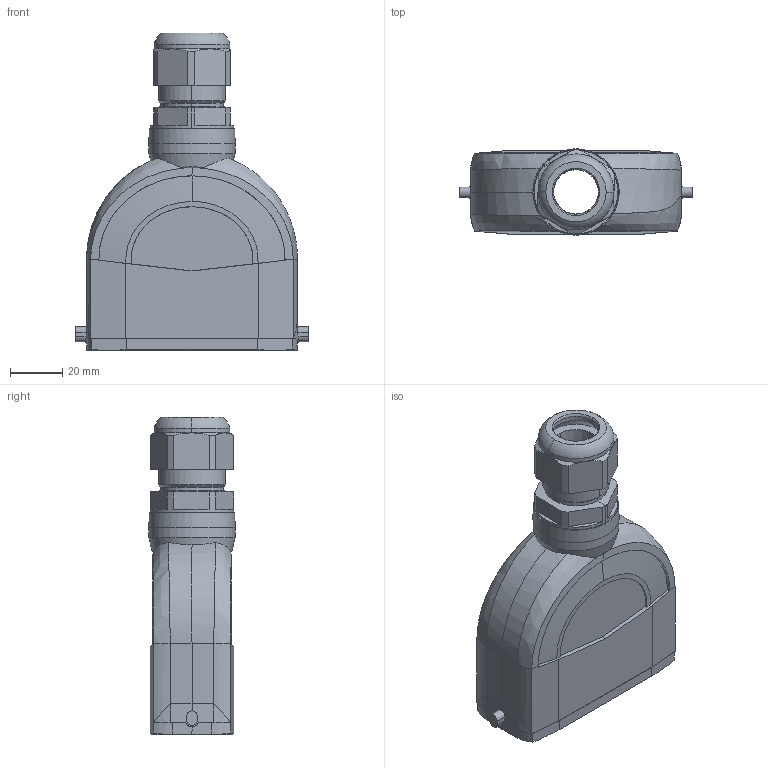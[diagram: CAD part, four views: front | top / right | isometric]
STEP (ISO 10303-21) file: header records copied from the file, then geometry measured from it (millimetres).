
FILE_DESCRIPTION(/* description */ (''),/* implementation_level */ '2;1');
FILE_NAME(/* name */ '100657486ugm000_c.stp',/* time_stamp */ '2022-03-11T23:48:23+01:00',/* author */ (''),/* organization */ (''),/* preprocessor_version */ 'ST-DEVELOPER v16.7',/* originating_system */ 'SIEMENS PLM Software NX 1911',/* authorisation */ '');
FILE_SCHEMA (('AUTOMOTIVE_DESIGN { 1 0 10303 214 3 1 1 1 }'));
Length unit declared in the file: millimetre
Products named in the file (1): 100657486ugm000_c
Bounding box: 89.1 x 32.98 x 121.35 mm (x, y, z)
Volume: 63565.3 mm3; surface area: 42343.3 mm2
Topology: 1 solids, 1 shells, 668 faces, 1911 edges, 1272 vertices
Faces by surface type: plane 418, cylinder 143, bspline 38, cone 29, torus 26, extrusion 8, revolution 6
Full cylindrical faces by diameter (mm): 0.753 x1, 0.986 x1, 2.5 x1, 3 x2, 3.1 x1, 3.5 x2, 4 x1, 23.37 x1, 32.9 x1
Entity records: 31045 total; most frequent: CARTESIAN_POINT 9375, ORIENTED_EDGE 3768, DIRECTION 3196, EDGE_CURVE 1884, VERTEX_POINT 1259, VECTOR 1166, LINE 1158, AXIS2_PLACEMENT_3D 1012
